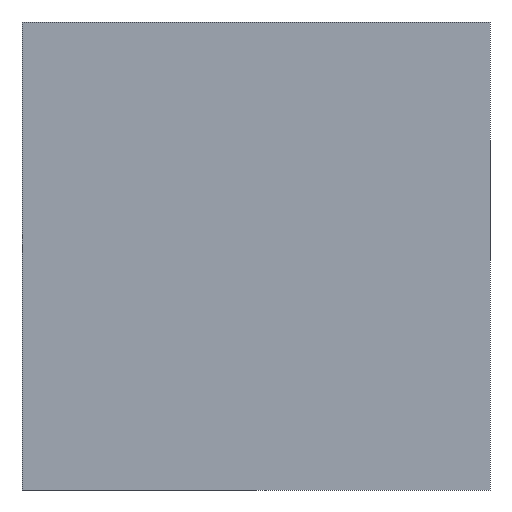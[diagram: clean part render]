
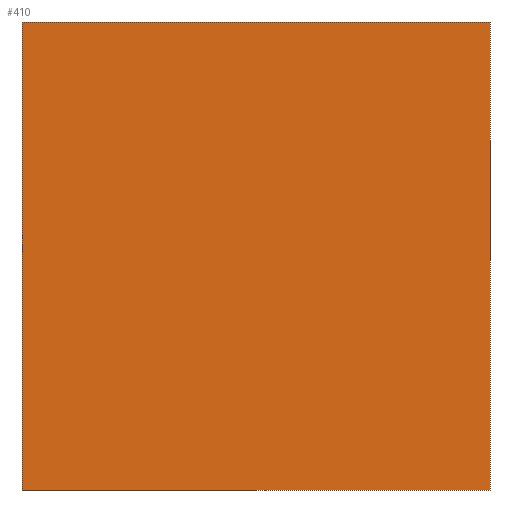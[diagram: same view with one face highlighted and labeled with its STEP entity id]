
A CAD part, left-side view. The second image highlights one B-rep face of the part: STEP entity #410.
In plain terms, the highlighted planar face has unit normal (-1, 0, 0).
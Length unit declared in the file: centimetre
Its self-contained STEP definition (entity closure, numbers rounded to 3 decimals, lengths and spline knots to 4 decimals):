
#10 = VERTEX_POINT ( 'NONE', #158 ) ;
#24 = VECTOR ( 'NONE', #355, 100. ) ;
#29 = VECTOR ( 'NONE', #150, 100. ) ;
#41 = LINE ( 'NONE', #337, #174 ) ;
#57 = DIRECTION ( 'NONE',  ( 0., -1., 0. ) ) ;
#58 = EDGE_LOOP ( 'NONE', ( #263, #135, #164, #277 ) ) ;
#95 = EDGE_CURVE ( 'NONE', #10, #308, #386, .T. ) ;
#98 = CARTESIAN_POINT ( 'NONE',  ( 0., 0., 0. ) ) ;
#116 = CARTESIAN_POINT ( 'NONE',  ( 0., 1000., 0. ) ) ;
#135 = ORIENTED_EDGE ( 'NONE', *, *, #95, .F. ) ;
#138 = CARTESIAN_POINT ( 'NONE',  ( 0., 1000., 0. ) ) ;
#148 = CARTESIAN_POINT ( 'NONE',  ( 0., 0., 1000. ) ) ;
#149 = VERTEX_POINT ( 'NONE', #325 ) ;
#150 = DIRECTION ( 'NONE',  ( 0., 0., -1. ) ) ;
#158 = CARTESIAN_POINT ( 'NONE',  ( 0., 0., 1000. ) ) ;
#164 = ORIENTED_EDGE ( 'NONE', *, *, #274, .F. ) ;
#174 = VECTOR ( 'NONE', #57, 100. ) ;
#228 = VERTEX_POINT ( 'NONE', #138 ) ;
#252 = DIRECTION ( 'NONE',  ( 1., 0., 0. ) ) ;
#255 = CARTESIAN_POINT ( 'NONE',  ( 0., 1000., 1000. ) ) ;
#259 = DIRECTION ( 'NONE',  ( 0., 0., -1. ) ) ;
#263 = ORIENTED_EDGE ( 'NONE', *, *, #372, .T. ) ;
#265 = FACE_OUTER_BOUND ( 'NONE', #58, .T. ) ;
#274 = EDGE_CURVE ( 'NONE', #149, #10, #41, .T. ) ;
#277 = ORIENTED_EDGE ( 'NONE', *, *, #382, .T. ) ;
#296 = PLANE ( 'NONE',  #423 ) ;
#302 = LINE ( 'NONE', #116, #24 ) ;
#308 = VERTEX_POINT ( 'NONE', #98 ) ;
#325 = CARTESIAN_POINT ( 'NONE',  ( 0., 1000., 1000. ) ) ;
#337 = CARTESIAN_POINT ( 'NONE',  ( 0., 1000., 1000. ) ) ;
#355 = DIRECTION ( 'NONE',  ( 0., -1., 0. ) ) ;
#372 = EDGE_CURVE ( 'NONE', #228, #308, #302, .T. ) ;
#382 = EDGE_CURVE ( 'NONE', #149, #228, #433, .T. ) ;
#386 = LINE ( 'NONE', #148, #29 ) ;
#397 = CARTESIAN_POINT ( 'NONE',  ( 0., 1000., 1000. ) ) ;
#401 = DIRECTION ( 'NONE',  ( 0., 0., -1. ) ) ;
#410 = ADVANCED_FACE ( 'NONE', ( #265 ), #296, .F. ) ;
#423 = AXIS2_PLACEMENT_3D ( 'NONE', #397, #252, #401 ) ;
#433 = LINE ( 'NONE', #255, #441 ) ;
#441 = VECTOR ( 'NONE', #259, 100. ) ;
